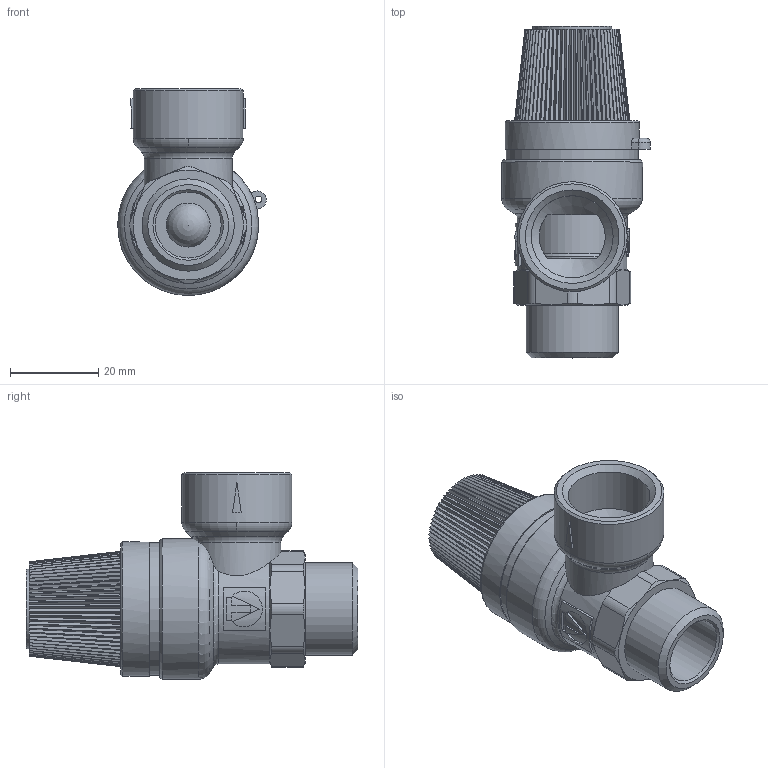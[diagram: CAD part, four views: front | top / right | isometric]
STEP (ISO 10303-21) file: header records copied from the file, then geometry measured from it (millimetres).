
FILE_DESCRIPTION(('STEP AP203'), '1');
FILE_NAME('覆.494142.002.000 捘 - VT.496.N.0430', '', ('UNSPECIFIED'), ('UNSPECIFIED'), 'C3D Converter', 'C3D Toolkit', '');
FILE_SCHEMA(('CONFIG_CONTROL_DESIGN'));
Length unit declared in the file: millimetre
Products named in the file (1): ВР.494142.002 СБ
Bounding box: 33.74 x 75.4 x 47 mm (x, y, z)
Volume: 38319.7 mm3; surface area: 13826.6 mm2
Topology: 1 solids, 2 shells, 872 faces, 2425 edges, 1606 vertices
Faces by surface type: plane 422, extrusion 303, cone 91, cylinder 43, torus 8, bspline 4, sphere 1
Full cylindrical faces by diameter (mm): 1.5 x1, 15 x1, 16 x1, 18 x1, 18.632 x1, 19.3 x1, 20.955 x1, 21 x1, 25 x1, 30 x1, 30.5 x1, 32 x1
Entity records: 31642 total; most frequent: CARTESIAN_POINT 10826, ORIENTED_EDGE 4794, DIRECTION 3229, EDGE_CURVE 2399, VECTOR 1605, VERTEX_POINT 1605, LINE 1302, B_SPLINE_CURVE_WITH_KNOTS 1118
